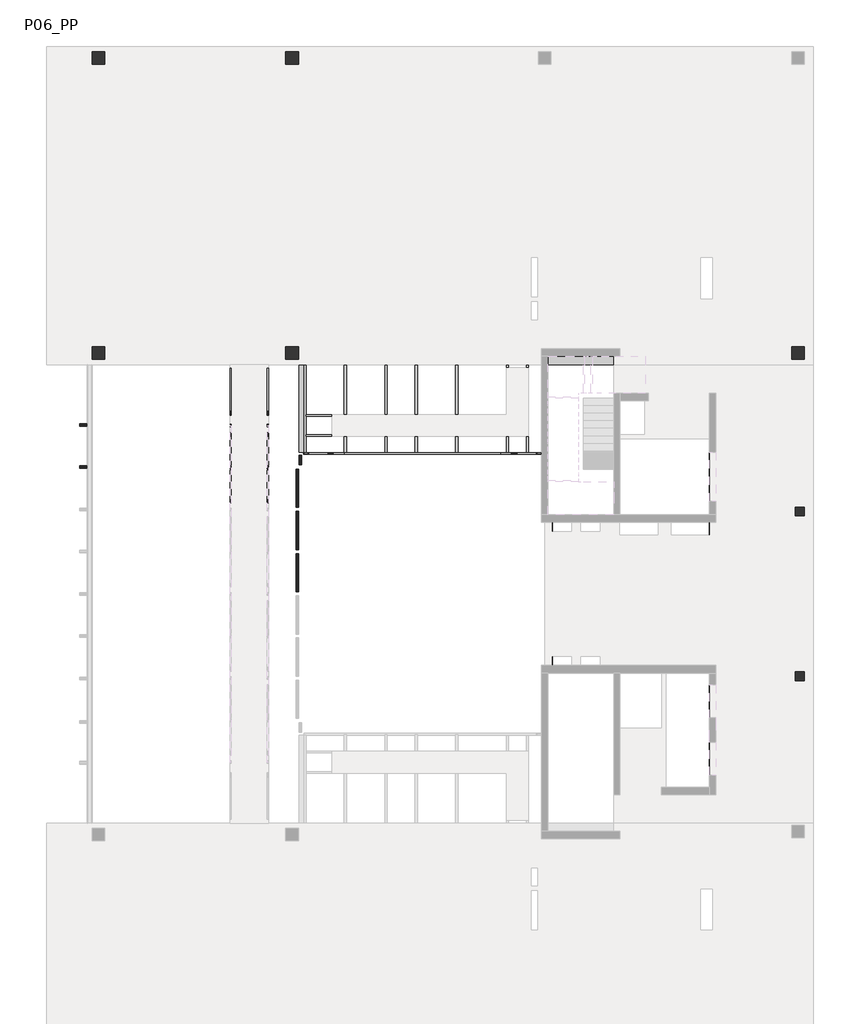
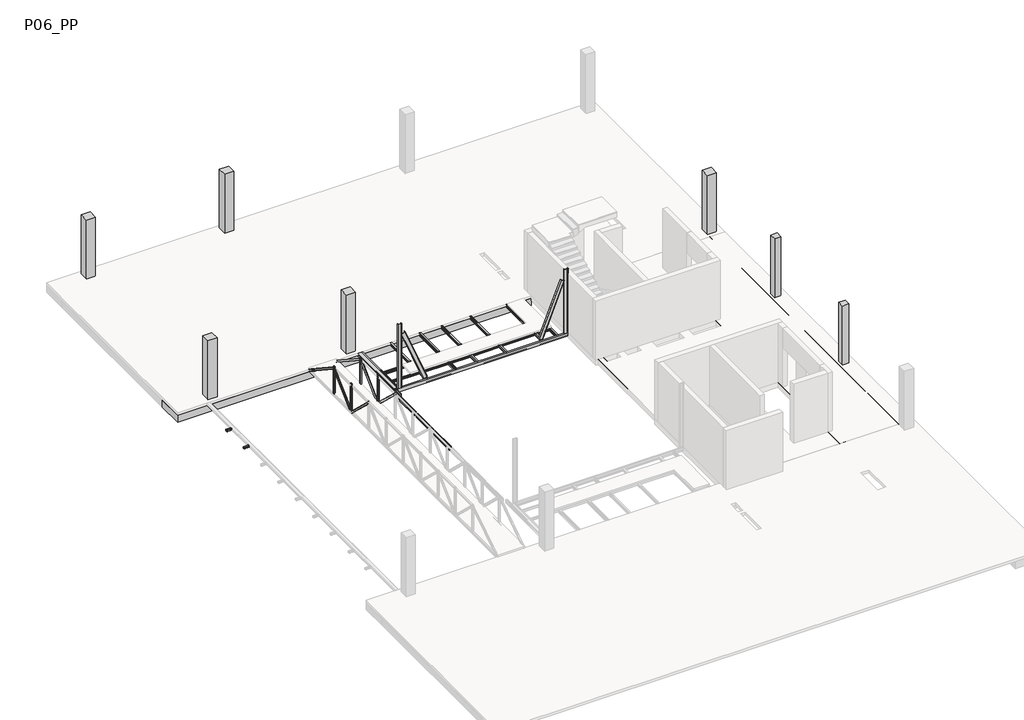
# One storey, part 3 of 4: 55 beams, 9 columns.
"""IFC4 building model written with IfcOpenShell, lengths in millimetres."""

from ifc_helpers import new_model, si_unit, frame, origin, place, context, project, spatial, polyline, outline, extrude, faceted_brep, transform, mapped, element, save
from components import heb_180x180_0f2e0399, m_hss_rectangular_hss_100x100_2c18bcb8, m_hss_rectangular_hss_100x100_facdedd0, m_hss_rectangular_hss_200x100_5f17627f, m_hss_rectangular_hss_200x100_02db10bf, m_hss_rectangular_hss_200x100_1788cd85, m_hss_rectangular_hss_200x100_5a28828e, ub_universal_beams_ipe_160x82_a4b44378, ub_universal_beams_ipe_160x82_3ea767f5, upn100x50_d5197bc7, upn100x50_399e2a19, upn100x50_abb258e1, upn100x50_0ffe9813, upn100x50_32115c67, upn100x50_21efe051, upn100x50_1668a3c5, upn100x50_bf4f13ef, upn100x50_c16297ee, upn100x50_40f5e142, upn100x50_6a18d03b, upn120x55_8ca40f5d, upn120x55_f8c29ef0, upn120x55_6f2391d9, upn120x55_f3862d68, upn120x55_dbb17e30, upn200x75_1f64faac, upn200x75_e6c17937, upn200x75_e630fb83, upn_200x75_f21e3de1

model = new_model("IFC4")

# Units and contexts
model_context = context("Model", 3, world=origin())
ifc_project = project(units=[si_unit("LENGTHUNIT", "METRE", prefix="MILLI")], contexts=[model_context])

# Site, building, storey
site = spatial("IfcSite", under=ifc_project)
building = spatial("IfcBuilding", under=site)
storey = spatial("IfcBuildingStorey", under=building, Name="P06_PP", Elevation=29910.0)

# Beams
placement = place(None, origin())
heb_180x180_shape = heb_180x180_0f2e0399(model_context)
element("IfcBeam", 1, ObjectType="M_HP-Bearing Pile : HEB 180x180", at=placement, inside=storey, context=model_context, shape_type="MappedRepresentation", body=[
    mapped(heb_180x180_shape, transform((-23130.357866, 12156.8787841, 29820.0), x_axis=(0.0, 1.0, 0.0), y_axis=(-1.0, 0.0, 0.0), z_axis=(0.0, 0.0, 1.0))),
])
element("IfcBeam", 2, ObjectType="M_Concrete-Rectangular Beam : 1500 x 550mm", at=placement, inside=storey, context=model_context, shape_type="Brep", body=[
    faceted_brep([(-13390.3216429, 13539.4134441, 29910.0), (-10790.2146087, 13539.4134441, 29910.0), (-10790.2146087, 13864.8960677, 29910.0), (-13390.3216429, 13864.8960677, 29910.0), (-2913.6343046, 15039.4134441, 29360.0), (-4553.6343046, 15039.4134441, 29360.0), (-5816.2708415, 15039.4134441, 29360.0), (-6216.2708415, 15039.4134441, 29360.0), (-7482.9375051, 15039.4134441, 29360.0), (-7882.9375051, 15039.4134441, 29360.0), (-9149.6041702, 15039.4134441, 29360.0), (-9549.6041702, 15039.4134441, 29360.0), (-10816.2708336, 15039.4134441, 29360.0), (-11216.2708336, 15039.4134441, 29360.0), (-12482.9374977, 15039.4134441, 29360.0), (-12882.9374977, 15039.4134441, 29360.0), (-14149.604161, 15039.4134441, 29360.0), (-14549.604161, 15039.4134441, 29360.0), (-15816.2708252, 15039.4134441, 29360.0), (-16216.2708252, 15039.4134441, 29360.0), (-17482.9374898, 15039.4134441, 29360.0), (-17882.9374898, 15039.4134441, 29360.0), (-19149.6041539, 15039.4134441, 29360.0), (-19549.6041539, 15039.4134441, 29360.0), (-20816.2708168, 15039.4134441, 29360.0), (-21216.2708168, 15039.4134441, 29360.0), (-22482.9374805, 15039.4134441, 29360.0), (-22882.9374805, 15039.4134441, 29360.0), (-24149.6041453, 15039.4134441, 29360.0), (-24549.6041453, 15039.4134441, 29360.0), (-25816.2708089, 15039.4134441, 29360.0), (-26216.2708089, 15039.4134441, 29360.0), (-27482.9374731, 15039.4134441, 29360.0), (-27882.9374731, 15039.4134441, 29360.0), (-29149.6041367, 15039.4134441, 29360.0), (-29549.6041367, 15039.4134441, 29360.0), (-30816.2708024, 15039.4134441, 29360.0), (-31216.2708024, 15039.4134441, 29360.0), (-32490.2931069, 15039.4134441, 29360.0), (-33190.2931069, 15039.4134441, 29360.0), (-33190.2931069, 15039.4134441, 29760.0), (-32490.2931069, 15039.4134441, 29760.0), (-31216.2708024, 15039.4134441, 29760.0), (-30816.2708024, 15039.4134441, 29760.0), (-29549.6041367, 15039.4134441, 29760.0), (-29149.6041367, 15039.4134441, 29760.0), (-27882.9374731, 15039.4134441, 29760.0), (-27482.9374731, 15039.4134441, 29760.0), (-26216.2708089, 15039.4134441, 29760.0), (-25816.2708089, 15039.4134441, 29760.0), (-24549.6041453, 15039.4134441, 29760.0), (-24149.6041453, 15039.4134441, 29760.0), (-22882.9374805, 15039.4134441, 29760.0), (-22482.9374805, 15039.4134441, 29760.0), (-21216.2708168, 15039.4134441, 29760.0), (-20816.2708168, 15039.4134441, 29760.0), (-19549.6041539, 15039.4134441, 29760.0), (-19149.6041539, 15039.4134441, 29760.0), (-17882.9374898, 15039.4134441, 29760.0), (-17482.9374898, 15039.4134441, 29760.0), (-16216.2708252, 15039.4134441, 29760.0), (-15816.2708252, 15039.4134441, 29760.0), (-14549.604161, 15039.4134441, 29760.0), (-14149.604161, 15039.4134441, 29760.0), (-12882.9374977, 15039.4134441, 29760.0), (-12482.9374977, 15039.4134441, 29760.0), (-11216.2708336, 15039.4134441, 29760.0), (-10816.2708336, 15039.4134441, 29760.0), (-9549.6041702, 15039.4134441, 29760.0), (-9149.6041702, 15039.4134441, 29760.0), (-7882.9375051, 15039.4134441, 29760.0), (-7482.9375051, 15039.4134441, 29760.0), (-6216.2708415, 15039.4134441, 29760.0), (-5816.2708415, 15039.4134441, 29760.0), (-4553.6343046, 15039.4134441, 29760.0), (-2913.6343046, 15039.4134441, 29760.0), (-33190.2931069, 13539.4134441, 29360.0), (-2913.6343046, 13539.4134441, 29360.0), (-13390.3216429, 13539.4134441, 29360.0), (-13390.3216429, 13864.8960687, 29360.0), (-10540.3248355, 13864.8960687, 29360.0), (-10540.3248355, 14164.8960687, 29360.0), (-13640.3216429, 14164.8960687, 29360.0), (-13640.3216429, 13539.4134441, 29360.0), (-3266.3636719, 13739.5630042, 29360.0), (-3266.3636764, 14239.5630042, 29360.0), (-3766.3636764, 14239.5629997, 29360.0), (-3766.3636719, 13739.5629997, 29360.0), (-23240.9136369, 13739.5627917, 29360.0), (-23240.9136354, 14239.5627917, 29360.0), (-23740.9136354, 14239.5627932, 29360.0), (-23740.9136369, 13739.5627932, 29360.0), (-30890.9550524, 13739.562786, 29360.0), (-30890.9550513, 14239.562786, 29360.0), (-31390.9550513, 14239.5627871, 29360.0), (-31390.9550524, 13739.5627871, 29360.0), (-13640.3216429, 13539.4134441, 29609.9777344), (-13390.3216429, 13539.4134441, 29609.9777344), (-2913.6343046, 13539.4134441, 29610.0), (-2913.6343046, 13539.4134441, 29760.0), (-10790.2146087, 13539.4134441, 29760.0), (-13390.3216429, 13539.4134441, 29760.0), (-33190.2931069, 13539.4134441, 29760.0), (-3266.3636719, 13739.5630042, 29610.0), (-3266.3636764, 14239.5630042, 29610.0), (-3766.3636719, 13739.5629997, 29610.0), (-3766.3636764, 14239.5629997, 29610.0), (-23240.9136369, 13739.5627917, 29610.0), (-23240.9136354, 14239.5627917, 29610.0), (-23740.9136369, 13739.5627932, 29610.0), (-23740.9136354, 14239.5627932, 29610.0), (-30890.9550524, 13739.562786, 29610.0), (-30890.9550513, 14239.562786, 29610.0), (-31390.9550524, 13739.5627871, 29610.0), (-31390.9550513, 14239.5627871, 29610.0), (-10540.3248355, 14164.8960687, 29609.9777344), (-13640.3216429, 14164.8960687, 29609.9777344), (-10540.3248355, 13864.8960687, 29609.9777344), (-13390.3216429, 13864.8960687, 29609.9777344), (-13640.3216429, 13864.8960687, 29609.9777344), (-10790.2146087, 13864.8960677, 29760.0), (-13390.3216429, 13864.8960677, 29760.0)], [[[0, 1, 2, 3]], [[4, 5, 6, 7, 8, 9, 10, 11, 12, 13, 14, 15, 16, 17, 18, 19, 20, 21, 22, 23, 24, 25, 26, 27, 28, 29, 30, 31, 32, 33, 34, 35, 36, 37, 38, 39, 40, 41, 42, 43, 44, 45, 46, 47, 48, 49, 50, 51, 52, 53, 54, 55, 56, 57, 58, 59, 60, 61, 62, 63, 64, 65, 66, 67, 68, 69, 70, 71, 72, 73, 74, 75]], [[76, 39, 38, 37, 36, 35, 34, 33, 32, 31, 30, 29, 28, 27, 26, 25, 24, 23, 22, 21, 20, 19, 18, 17, 16, 15, 14, 13, 12, 11, 10, 9, 8, 7, 6, 5, 4, 77, 78, 79, 80, 81, 82, 83], [84, 85, 86, 87], [88, 89, 90, 91], [92, 93, 94, 95]], [[76, 83, 96, 97, 78, 77, 98, 99, 100, 1, 0, 101, 102]], [[39, 76, 102, 40]], [[77, 4, 75, 99, 98]], [[103, 104, 85, 84]], [[105, 103, 84, 87]], [[106, 105, 87, 86]], [[104, 106, 86, 85]], [[104, 103, 105, 106]], [[107, 108, 89, 88]], [[109, 107, 88, 91]], [[110, 109, 91, 90]], [[108, 110, 90, 89]], [[108, 107, 109, 110]], [[111, 112, 93, 92]], [[113, 111, 92, 95]], [[114, 113, 95, 94]], [[112, 114, 94, 93]], [[112, 111, 113, 114]], [[115, 116, 82, 81]], [[117, 80, 79, 118]], [[116, 115, 117, 118, 97, 96, 119]], [[117, 115, 81, 80]], [[82, 116, 119, 96, 83]], [[97, 118, 79, 78]], [[120, 100, 99, 75, 74, 73, 72, 71, 70, 69, 68, 67, 66, 65, 64, 63, 62, 61, 60, 59, 58, 57, 56, 55, 54, 53, 52, 51, 50, 49, 48, 47, 46, 45, 44, 43, 42, 41, 40, 102, 101, 121]], [[120, 121, 3, 2]], [[121, 101, 0, 3]], [[100, 120, 2, 1]]]),
])
element("IfcBeam", 3, ObjectType="M_Concrete-Rectangular Beam : 300 x 300mm", at=placement, inside=storey, context=model_context, shape_type="SweptSolid", body=[
    extrude(outline(polyline([(-13515.3216429, 7614.8960673), (-13215.3216429, 7614.8960673), (-13215.3216429, 1364.8960692), (-13515.3216429, 1364.8960692), (-13515.3216429, 7614.8960673)])), frame((0.0, 0.0, 29610.0), z_axis=(0.0, 0.0, 1.0), x_axis=(1.0, 0.0, 0.0)), (0.0, 0.0, 1.0), 300.0),
])
element("IfcBeam", 4, ObjectType="M_Concrete-Rectangular Beam : 300 x 300mm", at=placement, inside=storey, context=model_context, shape_type="Brep", body=[
    faceted_brep([(-6715.3241677, 13539.4134441, 29910.0), (-7015.3241677, 13539.4134441, 29910.0), (-7015.3241677, -4560.5861501, 29910.0), (-6715.3241677, -4560.5861501, 29910.0), (-7015.3241677, 13539.4134441, 29760.0), (-7015.3241677, 13539.4134441, 29610.0), (-7015.3241677, -4560.5861501, 29610.0), (-7015.3241677, -4560.5861501, 29760.0), (-6715.3241677, 13539.4134441, 29610.0), (-6715.3241677, -4560.5861501, 29610.0), (-6715.3241677, -4560.5861501, 29760.0), (-6715.3241677, 13539.4134441, 29760.0)], [[[0, 1, 2, 3]], [[2, 1, 4, 5, 6, 7]], [[5, 8, 9, 6]], [[0, 3, 10, 9, 8, 11]], [[1, 0, 11, 8, 5, 4]], [[3, 2, 7, 6, 9, 10]]]),
])
element("IfcBeam", 5, ObjectType="M_Concrete-Rectangular Beam : 400 x 550mm", at=placement, inside=storey, context=model_context, shape_type="SweptSolid", body=[
    extrude(outline(polyline([(-30816.2708024, 15039.4134441), (-31216.2708024, 15039.4134441), (-31216.2708024, 24589.4144807), (-30816.2708024, 24589.4144807), (-30816.2708024, 15039.4134441)])), frame((0.0, 0.0, 29360.0), z_axis=(0.0, 0.0, 1.0), x_axis=(1.0, 0.0, 0.0)), (0.0, 0.0, 1.0), 400.0),
])
element("IfcBeam", 6, ObjectType="M_Concrete-Rectangular Beam : 400 x 550mm", at=placement, inside=storey, context=model_context, shape_type="SweptSolid", body=[
    extrude(outline(polyline([(-29149.6041367, 15039.4134441), (-29549.6041367, 15039.4134441), (-29549.6041367, 24589.4144807), (-29149.6041367, 24589.4144807), (-29149.6041367, 15039.4134441)])), frame((0.0, 0.0, 29360.0), z_axis=(0.0, 0.0, 1.0), x_axis=(1.0, 0.0, 0.0)), (0.0, 0.0, 1.0), 400.0),
])
element("IfcBeam", 7, ObjectType="M_Concrete-Rectangular Beam : 400 x 550mm", at=placement, inside=storey, context=model_context, shape_type="SweptSolid", body=[
    extrude(outline(polyline([(-27482.9374731, 15039.4134441), (-27882.9374731, 15039.4134441), (-27882.9374731, 24589.4144807), (-27482.9374731, 24589.4144807), (-27482.9374731, 15039.4134441)])), frame((0.0, 0.0, 29360.0), z_axis=(0.0, 0.0, 1.0), x_axis=(1.0, 0.0, 0.0)), (0.0, 0.0, 1.0), 400.0),
])
element("IfcBeam", 8, ObjectType="M_Concrete-Rectangular Beam : 400 x 550mm", at=placement, inside=storey, context=model_context, shape_type="SweptSolid", body=[
    extrude(outline(polyline([(-25816.2708089, 15039.4134441), (-26216.2708089, 15039.4134441), (-26216.2708089, 24589.4144807), (-25816.2708089, 24589.4144807), (-25816.2708089, 15039.4134441)])), frame((0.0, 0.0, 29360.0), z_axis=(0.0, 0.0, 1.0), x_axis=(1.0, 0.0, 0.0)), (0.0, 0.0, 1.0), 400.0),
])
element("IfcBeam", 9, ObjectType="M_Concrete-Rectangular Beam : 400 x 550mm", at=placement, inside=storey, context=model_context, shape_type="SweptSolid", body=[
    extrude(outline(polyline([(-24149.6041453, 15039.4134441), (-24549.6041453, 15039.4134441), (-24549.6041453, 24589.4144807), (-24149.6041453, 24589.4144807), (-24149.6041453, 15039.4134441)])), frame((0.0, 0.0, 29360.0), z_axis=(0.0, 0.0, 1.0), x_axis=(1.0, 0.0, 0.0)), (0.0, 0.0, 1.0), 400.0),
])
element("IfcBeam", 10, ObjectType="M_Concrete-Rectangular Beam : 400 x 550mm", at=placement, inside=storey, context=model_context, shape_type="SweptSolid", body=[
    extrude(outline(polyline([(-22482.9374805, 15039.4134441), (-22882.9374805, 15039.4134441), (-22882.9374805, 24589.4144807), (-22482.9374805, 24589.4144807), (-22482.9374805, 15039.4134441)])), frame((0.0, 0.0, 29360.0), z_axis=(0.0, 0.0, 1.0), x_axis=(1.0, 0.0, 0.0)), (0.0, 0.0, 1.0), 400.0),
])
element("IfcBeam", 11, ObjectType="M_Concrete-Rectangular Beam : 400 x 550mm", at=placement, inside=storey, context=model_context, shape_type="SweptSolid", body=[
    extrude(outline(polyline([(-20816.2708168, 15039.4134441), (-21216.2708168, 15039.4134441), (-21216.2708168, 24589.4144807), (-20816.2708168, 24589.4144807), (-20816.2708168, 15039.4134441)])), frame((0.0, 0.0, 29360.0), z_axis=(0.0, 0.0, 1.0), x_axis=(1.0, 0.0, 0.0)), (0.0, 0.0, 1.0), 400.0),
])
element("IfcBeam", 12, ObjectType="M_Concrete-Rectangular Beam : 400 x 550mm", at=placement, inside=storey, context=model_context, shape_type="SweptSolid", body=[
    extrude(outline(polyline([(-19149.6041539, 15039.4134441), (-19549.6041539, 15039.4134441), (-19549.6041539, 24589.4144807), (-19149.6041539, 24589.4144807), (-19149.6041539, 15039.4134441)])), frame((0.0, 0.0, 29360.0), z_axis=(0.0, 0.0, 1.0), x_axis=(1.0, 0.0, 0.0)), (0.0, 0.0, 1.0), 400.0),
])
element("IfcBeam", 13, ObjectType="M_Concrete-Rectangular Beam : 400 x 550mm", at=placement, inside=storey, context=model_context, shape_type="SweptSolid", body=[
    extrude(outline(polyline([(-17482.9374898, 15039.4134441), (-17882.9374898, 15039.4134441), (-17882.9374898, 24589.4144807), (-17482.9374898, 24589.4144807), (-17482.9374898, 15039.4134441)])), frame((0.0, 0.0, 29360.0), z_axis=(0.0, 0.0, 1.0), x_axis=(1.0, 0.0, 0.0)), (0.0, 0.0, 1.0), 400.0),
])
element("IfcBeam", 14, ObjectType="M_Concrete-Rectangular Beam : 400 x 550mm", at=placement, inside=storey, context=model_context, shape_type="SweptSolid", body=[
    extrude(outline(polyline([(-15816.2708252, 15039.4134441), (-16216.2708252, 15039.4134441), (-16216.2708252, 24589.4144807), (-15816.2708252, 24589.4144807), (-15816.2708252, 15039.4134441)])), frame((0.0, 0.0, 29360.0), z_axis=(0.0, 0.0, 1.0), x_axis=(1.0, 0.0, 0.0)), (0.0, 0.0, 1.0), 400.0),
])
element("IfcBeam", 15, ObjectType="M_Concrete-Rectangular Beam : 850 x 300mm", at=placement, inside=storey, context=model_context, shape_type="Brep", body=[
    faceted_brep([(-2913.6343046, 13539.4134441, 29910.0), (-3763.6343046, 13539.4134441, 29910.0), (-3763.6343046, -4560.5861501, 29910.0), (-2913.6343046, -4560.5861501, 29910.0), (-3763.6343046, 13539.4134441, 29760.0), (-3763.6343046, 13539.4134441, 29610.0), (-3763.6343046, -4560.5861501, 29610.0), (-3763.6343046, -4560.5861501, 29760.0), (-2913.6343046, 13539.4134441, 29610.0), (-2913.6343046, -4560.5861501, 29610.0), (-2913.6343046, -4560.5861501, 29760.0), (-2913.6343046, 13539.4134441, 29760.0)], [[[0, 1, 2, 3]], [[2, 1, 4, 5, 6, 7]], [[5, 8, 9, 6]], [[0, 3, 10, 9, 8, 11]], [[1, 0, 11, 8, 5, 4]], [[3, 2, 7, 6, 9, 10]]]),
])
m_hss_rectangular_hss_100x100_shape = m_hss_rectangular_hss_100x100_2c18bcb8(model_context)
element("IfcBeam", 16, ObjectType="M_HSS Rectangular : HSS 100x100", at=placement, inside=storey, context=model_context, shape_type="MappedRepresentation", body=[
    mapped(m_hss_rectangular_hss_100x100_shape, transform((-31731.1858345, 11156.6960682, 29860.0), x_axis=(-1.0, -1.6625733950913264e-09, 0.0), y_axis=(1.6625733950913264e-09, -1.0, 0.0), z_axis=(0.0, 0.0, 1.0))),
])
m_hss_rectangular_hss_100x100_2_shape = m_hss_rectangular_hss_100x100_facdedd0(model_context)
element("IfcBeam", 17, ObjectType="M_HSS Rectangular : HSS 100x100", at=placement, inside=storey, context=model_context, shape_type="MappedRepresentation", body=[
    mapped(m_hss_rectangular_hss_100x100_2_shape, transform((-31731.1858341, 9489.9960685, 29860.0), x_axis=(-1.0, 0.0, 0.0), y_axis=(0.0, -1.0, 0.0), z_axis=(0.0, 0.0, 1.0))),
])
m_hss_rectangular_hss_200x100_shape = m_hss_rectangular_hss_200x100_5f17627f(model_context)
element("IfcBeam", 18, ObjectType="M_HSS Rectangular : HSS 200x100", at=placement, inside=storey, context=model_context, shape_type="MappedRepresentation", body=[
    mapped(m_hss_rectangular_hss_200x100_shape, transform((-23290.3172019, 8679.8399046, 29810.0), x_axis=(-3.182446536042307e-08, -0.9999999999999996, 0.0), y_axis=(0.9999999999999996, -3.182446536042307e-08, 0.0), z_axis=(0.0, 0.0, 1.0))),
])
m_hss_rectangular_hss_200x100_2_shape = m_hss_rectangular_hss_200x100_02db10bf(model_context)
element("IfcBeam", 19, ObjectType="M_HSS Rectangular : HSS 200x100", at=placement, inside=storey, context=model_context, shape_type="MappedRepresentation", body=[
    mapped(m_hss_rectangular_hss_200x100_2_shape, transform((-23290.3172557, 6989.4139649, 29810.0), x_axis=(-3.182446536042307e-08, -0.9999999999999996, 0.0), y_axis=(0.9999999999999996, -3.182446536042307e-08, 0.0), z_axis=(0.0, 0.0, 1.0))),
])
m_hss_rectangular_hss_200x100_3_shape = m_hss_rectangular_hss_200x100_1788cd85(model_context)
element("IfcBeam", 20, ObjectType="M_HSS Rectangular : HSS 200x100", at=placement, inside=storey, context=model_context, shape_type="MappedRepresentation", body=[
    mapped(m_hss_rectangular_hss_200x100_3_shape, transform((-23290.3173087, 5322.9883919, 29810.0), x_axis=(-3.182446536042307e-08, -0.9999999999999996, 0.0), y_axis=(0.9999999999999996, -3.182446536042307e-08, 0.0), z_axis=(0.0, 0.0, 1.0))),
])
m_hss_rectangular_hss_200x100_4_shape = m_hss_rectangular_hss_200x100_5a28828e(model_context)
element("IfcBeam", 21, ObjectType="M_HSS Rectangular : HSS 200x100", at=placement, inside=storey, context=model_context, shape_type="MappedRepresentation", body=[
    mapped(m_hss_rectangular_hss_200x100_4_shape, transform((-23160.3171618, 9792.3965304, 29810.0), x_axis=(0.0, 1.0, 0.0), y_axis=(-1.0, 0.0, 0.0), z_axis=(0.0, 0.0, 1.0))),
])
ub_universal_beams_ipe_160x82_shape = ub_universal_beams_ipe_160x82_a4b44378(model_context)
element("IfcBeam", 22, ObjectType="UB-Universal Beams : IPE 160x82", at=placement, inside=storey, context=model_context, shape_type="MappedRepresentation", body=[
    mapped(ub_universal_beams_ipe_160x82_shape, transform((-14190.4459331, 12171.9464504, 29830.0), x_axis=(0.0, -1.0, 0.0), y_axis=(1.0, 0.0, 0.0), z_axis=(0.0, 0.0, 1.0))),
])
element("IfcBeam", 23, ObjectType="UB-Universal Beams : IPE 160x82", at=placement, inside=storey, context=model_context, shape_type="MappedRepresentation", body=[
    mapped(ub_universal_beams_ipe_160x82_shape, transform((-14990.4459326, 12171.9464378, 29830.0), x_axis=(0.0, -1.0, 0.0), y_axis=(1.0, 0.0, 0.0), z_axis=(0.0, 0.0, 1.0))),
])
element("IfcBeam", 24, ObjectType="UB-Universal Beams : IPE 160x82", at=placement, inside=storey, context=model_context, shape_type="MappedRepresentation", body=[
    mapped(ub_universal_beams_ipe_160x82_shape, transform((-16990.4459316, 12171.9464061, 29830.0), x_axis=(0.0, -1.0, 0.0), y_axis=(1.0, 0.0, 0.0), z_axis=(0.0, 0.0, 1.0))),
])
element("IfcBeam", 25, ObjectType="UB-Universal Beams : IPE 160x82", at=placement, inside=storey, context=model_context, shape_type="MappedRepresentation", body=[
    mapped(ub_universal_beams_ipe_160x82_shape, transform((-18590.4459308, 12171.9463807, 29830.0), x_axis=(0.0, -1.0, 0.0), y_axis=(1.0, 0.0, 0.0), z_axis=(0.0, 0.0, 1.0))),
])
element("IfcBeam", 26, ObjectType="UB-Universal Beams : IPE 160x82", at=placement, inside=storey, context=model_context, shape_type="MappedRepresentation", body=[
    mapped(ub_universal_beams_ipe_160x82_shape, transform((-19790.4459314, 12171.9463617, 29830.0), x_axis=(0.0, -1.0, 0.0), y_axis=(1.0, 0.0, 0.0), z_axis=(0.0, 0.0, 1.0))),
])
element("IfcBeam", 27, ObjectType="UB-Universal Beams : IPE 160x82", at=placement, inside=storey, context=model_context, shape_type="MappedRepresentation", body=[
    mapped(ub_universal_beams_ipe_160x82_shape, transform((-21390.4459306, 12171.9463363, 29830.0), x_axis=(0.0, -1.0, 0.0), y_axis=(1.0, 0.0, 0.0), z_axis=(0.0, 0.0, 1.0))),
])
ub_universal_beams_ipe_160x82_2_shape = ub_universal_beams_ipe_160x82_3ea767f5(model_context)
element("IfcBeam", 28, ObjectType="UB-Universal Beams : IPE 160x82", at=placement, inside=storey, context=model_context, shape_type="MappedRepresentation", body=[
    mapped(ub_universal_beams_ipe_160x82_2_shape, transform((-22991.1860553, 12171.9463109, 29830.0), x_axis=(0.0, -1.0, 0.0), y_axis=(1.0, 0.0, 0.0), z_axis=(0.0, 0.0, 1.0))),
])
upn100x50_shape = upn100x50_d5197bc7(model_context)
element("IfcBeam", 29, ObjectType="M_MC Shapes : UPN100x50", at=placement, inside=storey, context=model_context, shape_type="MappedRepresentation", body=[
    mapped(upn100x50_shape, transform((-25184.5845147, 11143.5137942, 29860.0), x_axis=(1.0, 0.0, 0.0), y_axis=(0.0, 1.0, 0.0), z_axis=(0.0, 0.0, 1.0))),
])
element("IfcBeam", 30, ObjectType="M_MC Shapes : UPN100x50", at=placement, inside=storey, context=model_context, shape_type="MappedRepresentation", body=[
    mapped(upn100x50_shape, transform((-25184.5845147, 9483.5638973, 29860.0), x_axis=(1.0, 0.0, 0.0), y_axis=(0.0, 1.0, 0.0), z_axis=(0.0, 0.0, 1.0))),
])
upn100x50_2_shape = upn100x50_399e2a19(model_context)
element("IfcBeam", 31, ObjectType="M_MC Shapes : UPN100x50", at=placement, inside=storey, context=model_context, shape_type="MappedRepresentation", body=[
    mapped(upn100x50_2_shape, transform((-25906.3198148, 11129.4137942, 30750.0), x_axis=(0.0, 0.0, 1.0), y_axis=(-1.0, 0.0, 0.0), z_axis=(0.0, -1.0, 0.0))),
])
upn100x50_3_shape = upn100x50_abb258e1(model_context)
element("IfcBeam", 32, ObjectType="M_MC Shapes : UPN100x50", at=placement, inside=storey, context=model_context, shape_type="MappedRepresentation", body=[
    mapped(upn100x50_3_shape, transform((-24462.8492146, 11129.4137942, 30750.0), x_axis=(0.0, 0.0, 1.0), y_axis=(-1.0, 0.0, 0.0), z_axis=(0.0, -1.0, 0.0))),
])
upn100x50_4_shape = upn100x50_0ffe9813(model_context)
element("IfcBeam", 33, ObjectType="M_MC Shapes : UPN100x50", at=placement, inside=storey, context=model_context, shape_type="MappedRepresentation", body=[
    mapped(upn100x50_4_shape, transform((-25906.3198148, 12288.5615454, 30680.0608104), x_axis=(0.0, -0.836296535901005, 0.548277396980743), y_axis=(-1.0, 0.0, 0.0), z_axis=(0.0, -0.548277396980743, -0.836296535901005))),
])
upn100x50_5_shape = upn100x50_32115c67(model_context)
element("IfcBeam", 34, ObjectType="M_MC Shapes : UPN100x50", at=placement, inside=storey, context=model_context, shape_type="MappedRepresentation", body=[
    mapped(upn100x50_5_shape, transform((-24462.8492146, 12288.5615454, 30680.0608104), x_axis=(0.0, -0.836296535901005, 0.548277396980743), y_axis=(-1.0, 0.0, 0.0), z_axis=(0.0, -0.548277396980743, -0.836296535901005))),
])
upn100x50_6_shape = upn100x50_21efe051(model_context)
element("IfcBeam", 35, ObjectType="M_MC Shapes : UPN100x50", at=placement, inside=storey, context=model_context, shape_type="MappedRepresentation", body=[
    mapped(upn100x50_6_shape, transform((-25906.3198148, 8589.4749296, 30697.5323686), x_axis=(0.0, -0.7243454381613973, 0.6894372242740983), y_axis=(-1.0, 0.0, 0.0), z_axis=(0.0, -0.6894372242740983, -0.7243454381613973))),
])
upn100x50_7_shape = upn100x50_1668a3c5(model_context)
element("IfcBeam", 36, ObjectType="M_MC Shapes : UPN100x50", at=placement, inside=storey, context=model_context, shape_type="MappedRepresentation", body=[
    mapped(upn100x50_7_shape, transform((-24462.8492146, 8589.4749296, 30697.5323686), x_axis=(0.0, -0.7243454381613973, 0.6894372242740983), y_axis=(-1.0, 0.0, 0.0), z_axis=(0.0, -0.6894372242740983, -0.7243454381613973))),
])
upn100x50_8_shape = upn100x50_bf4f13ef(model_context)
element("IfcBeam", 37, ObjectType="M_MC Shapes : UPN100x50", at=placement, inside=storey, context=model_context, shape_type="MappedRepresentation", body=[
    mapped(upn100x50_8_shape, transform((-25906.3198148, 9469.4140005, 30750.0), x_axis=(0.0, 0.0, 1.0), y_axis=(-1.0, 0.0, 0.0), z_axis=(0.0, -1.0, 0.0))),
])
upn100x50_9_shape = upn100x50_c16297ee(model_context)
element("IfcBeam", 38, ObjectType="M_MC Shapes : UPN100x50", at=placement, inside=storey, context=model_context, shape_type="MappedRepresentation", body=[
    mapped(upn100x50_9_shape, transform((-25906.3198148, 10349.3529685, 30697.5323748), x_axis=(0.0, -0.7243453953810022, -0.6894372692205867), y_axis=(-1.0, 0.0, 0.0), z_axis=(0.0, 0.6894372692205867, -0.7243453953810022))),
])
upn100x50_10_shape = upn100x50_40f5e142(model_context)
element("IfcBeam", 39, ObjectType="M_MC Shapes : UPN100x50", at=placement, inside=storey, context=model_context, shape_type="MappedRepresentation", body=[
    mapped(upn100x50_10_shape, transform((-24462.8492146, 9469.4140005, 30750.0), x_axis=(0.0, 0.0, 1.0), y_axis=(-1.0, 0.0, 0.0), z_axis=(0.0, -1.0, 0.0))),
])
upn100x50_11_shape = upn100x50_6a18d03b(model_context)
element("IfcBeam", 40, ObjectType="M_MC Shapes : UPN100x50", at=placement, inside=storey, context=model_context, shape_type="MappedRepresentation", body=[
    mapped(upn100x50_11_shape, transform((-24462.8492146, 10349.3529685, 30697.5323748), x_axis=(0.0, -0.7243453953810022, -0.6894372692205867), y_axis=(-1.0, 0.0, 0.0), z_axis=(0.0, 0.6894372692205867, -0.7243453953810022))),
])
upn120x55_shape = upn120x55_8ca40f5d(model_context)
element("IfcBeam", 41, ObjectType="M_MC Shapes : UPN120x55", at=placement, inside=storey, context=model_context, shape_type="MappedRepresentation", body=[
    mapped(upn120x55_shape, transform((-22165.4459321, 11551.9793105, 29850.0), x_axis=(0.9999999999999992, 4.0441290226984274e-08, 0.0), y_axis=(-4.0441290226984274e-08, 0.9999999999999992, 0.0), z_axis=(0.0, 0.0, 1.0))),
])
element("IfcBeam", 42, ObjectType="M_MC Shapes : UPN120x55", at=placement, inside=storey, context=model_context, shape_type="MappedRepresentation", body=[
    mapped(upn120x55_shape, transform((-22165.4459321, 10751.9793096, 29850.0), x_axis=(0.9999999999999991, 4.319865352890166e-08, 0.0), y_axis=(-4.319865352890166e-08, 0.9999999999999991, 0.0), z_axis=(0.0, 0.0, 1.0))),
])
upn120x55_2_shape = upn120x55_f8c29ef0(model_context)
element("IfcBeam", 43, ObjectType="M_MC Shapes : UPN120x55", at=placement, inside=storey, context=model_context, shape_type="MappedRepresentation", body=[
    mapped(upn120x55_2_shape, transform((-20590.445931, 10751.9793776, 29850.0), x_axis=(0.9999999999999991, 4.319865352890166e-08, 0.0), y_axis=(-4.319865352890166e-08, 0.9999999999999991, 0.0), z_axis=(0.0, 0.0, 1.0))),
])
element("IfcBeam", 44, ObjectType="M_MC Shapes : UPN120x55", at=placement, inside=storey, context=model_context, shape_type="MappedRepresentation", body=[
    mapped(upn120x55_2_shape, transform((-17790.4459312, 10751.9794985, 29850.0), x_axis=(0.9999999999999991, 4.319865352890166e-08, 0.0), y_axis=(-4.319865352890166e-08, 0.9999999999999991, 0.0), z_axis=(0.0, 0.0, 1.0))),
])
element("IfcBeam", 45, ObjectType="M_MC Shapes : UPN120x55", at=placement, inside=storey, context=model_context, shape_type="MappedRepresentation", body=[
    mapped(upn120x55_2_shape, transform((-20590.445931, 11551.9793742, 29850.0), x_axis=(0.9999999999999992, 4.0441290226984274e-08, 0.0), y_axis=(-4.0441290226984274e-08, 0.9999999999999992, 0.0), z_axis=(0.0, 0.0, 1.0))),
])
element("IfcBeam", 46, ObjectType="M_MC Shapes : UPN120x55", at=placement, inside=storey, context=model_context, shape_type="MappedRepresentation", body=[
    mapped(upn120x55_2_shape, transform((-17790.4459312, 11551.9794874, 29850.0), x_axis=(0.9999999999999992, 4.0441290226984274e-08, 0.0), y_axis=(-4.0441290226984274e-08, 0.9999999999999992, 0.0), z_axis=(0.0, 0.0, 1.0))),
])
upn120x55_3_shape = upn120x55_6f2391d9(model_context)
element("IfcBeam", 47, ObjectType="M_MC Shapes : UPN120x55", at=placement, inside=storey, context=model_context, shape_type="MappedRepresentation", body=[
    mapped(upn120x55_3_shape, transform((-19190.4459311, 10751.9794381, 29850.0), x_axis=(0.9999999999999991, 4.319865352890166e-08, 0.0), y_axis=(-4.319865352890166e-08, 0.9999999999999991, 0.0), z_axis=(0.0, 0.0, 1.0))),
])
element("IfcBeam", 48, ObjectType="M_MC Shapes : UPN120x55", at=placement, inside=storey, context=model_context, shape_type="MappedRepresentation", body=[
    mapped(upn120x55_3_shape, transform((-19190.4459311, 11551.9794308, 29850.0), x_axis=(0.9999999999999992, 4.0441290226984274e-08, 0.0), y_axis=(-4.0441290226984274e-08, 0.9999999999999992, 0.0), z_axis=(0.0, 0.0, 1.0))),
])
upn120x55_4_shape = upn120x55_f3862d68(model_context)
element("IfcBeam", 49, ObjectType="M_MC Shapes : UPN120x55", at=placement, inside=storey, context=model_context, shape_type="MappedRepresentation", body=[
    mapped(upn120x55_4_shape, transform((-15990.4459321, 10751.9795763, 29850.0), x_axis=(0.9999999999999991, 4.319865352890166e-08, 0.0), y_axis=(-4.319865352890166e-08, 0.9999999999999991, 0.0), z_axis=(0.0, 0.0, 1.0))),
])
element("IfcBeam", 50, ObjectType="M_MC Shapes : UPN120x55", at=placement, inside=storey, context=model_context, shape_type="MappedRepresentation", body=[
    mapped(upn120x55_4_shape, transform((-15990.4459321, 11551.9795602, 29850.0), x_axis=(0.9999999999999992, 4.0441290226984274e-08, 0.0), y_axis=(-4.0441290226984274e-08, 0.9999999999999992, 0.0), z_axis=(0.0, 0.0, 1.0))),
])
upn120x55_5_shape = upn120x55_dbb17e30(model_context)
element("IfcBeam", 51, ObjectType="M_MC Shapes : UPN120x55", at=placement, inside=storey, context=model_context, shape_type="MappedRepresentation", body=[
    mapped(upn120x55_5_shape, transform((-14590.4459328, 11551.9796168, 29850.0), x_axis=(0.9999999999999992, 4.0441290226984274e-08, 0.0), y_axis=(-4.0441290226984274e-08, 0.9999999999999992, 0.0), z_axis=(0.0, 0.0, 1.0))),
])
element("IfcBeam", 52, ObjectType="M_MC Shapes : UPN120x55", at=placement, inside=storey, context=model_context, shape_type="MappedRepresentation", body=[
    mapped(upn120x55_5_shape, transform((-14590.4459328, 10751.9796368, 29850.0), x_axis=(0.9999999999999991, 4.319865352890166e-08, 0.0), y_axis=(-4.319865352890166e-08, 0.9999999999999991, 0.0), z_axis=(0.0, 0.0, 1.0))),
])
upn200x75_shape = upn200x75_1f64faac(model_context)
element("IfcBeam", 53, ObjectType="M_MC Shapes : UPN200x75", at=placement, inside=storey, context=model_context, shape_type="MappedRepresentation", body=[
    mapped(upn200x75_shape, transform((-22208.7675596, 10001.2791702, 31730.6012021), x_axis=(-0.3712989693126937, 1.179124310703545e-08, 0.9285133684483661), y_axis=(3.175673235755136e-08, 0.9999999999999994, 0.0), z_axis=(-0.9285133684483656, 2.9486550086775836e-08, -0.3712989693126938))),
])
upn200x75_2_shape = upn200x75_e6c17937(model_context)
element("IfcBeam", 54, ObjectType="M_MC Shapes : UPN200x75", at=placement, inside=storey, context=model_context, shape_type="MappedRepresentation", body=[
    mapped(upn200x75_2_shape, transform((-14469.7052054, 10001.2791702, 31733.85925), x_axis=(0.3712989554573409, 1.1791241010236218e-08, 0.9285133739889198), y_axis=(3.175673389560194e-08, -0.9999999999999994, 0.0), z_axis=(0.9285133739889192, 2.9486552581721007e-08, -0.371298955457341))),
])
upn200x75_3_shape = upn200x75_e630fb83(model_context)
element("IfcBeam", 55, ObjectType="M_MC Shapes : UPN200x75", at=placement, inside=storey, context=model_context, shape_type="MappedRepresentation", body=[
    mapped(upn200x75_3_shape, transform((-18278.2406773, 10001.2793274, 29810.0), x_axis=(0.9999999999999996, 3.175670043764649e-08, 0.0), y_axis=(-3.175670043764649e-08, 0.9999999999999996, 0.0), z_axis=(0.0, 0.0, 1.0))),
])

# Columns
element("IfcColumn", 56, ObjectType="Concrete-Rectangular-Column : Pilar_Rectangular-Formigo-350x350", at=placement, inside=storey, context=model_context, shape_type="SweptSolid", body=[
    extrude(outline(polyline([(-3266.6337069, 1415.0848339), (-3266.6337037, 1065.0848339), (-3616.6337037, 1065.0848308), (-3616.6337069, 1415.0848308), (-3266.6337069, 1415.0848339)])), frame((0.0, 0.0, 29910.0), z_axis=(0.0, 0.0, 1.0), x_axis=(1.0, 0.0, 0.0)), (0.0, 0.0, 1.0), 3450.0),
])
element("IfcColumn", 57, ObjectType="Concrete-Rectangular-Column : Pilar_Rectangular-Formigo-350x350", at=placement, inside=storey, context=model_context, shape_type="SweptSolid", body=[
    extrude(outline(polyline([(-3266.633708, 7915.0848297), (-3266.6337054, 7565.0848297), (-3616.6337054, 7565.084827), (-3616.633708, 7915.084827), (-3266.633708, 7915.0848297)])), frame((0.0, 0.0, 29910.0), z_axis=(0.0, 0.0, 1.0), x_axis=(1.0, 0.0, 0.0)), (0.0, 0.0, 1.0), 3450.0),
])
element("IfcColumn", 58, ObjectType="Concrete-Rectangular-Column : Pilar_Rectangular-Formigo-500x500", at=placement, inside=storey, context=model_context, shape_type="Brep", body=[
    faceted_brep([(-3265.767646, 14239.8953429, 29910.0), (-3265.7676427, 13739.8953429, 29910.0), (-3765.7676427, 13739.8953395, 29910.0), (-3765.767646, 14239.8953395, 29910.0), (-3265.767646, 14239.8953429, 33360.0), (-3265.7676427, 13739.8953429, 33360.0), (-3265.7676427, 13739.8953429, 33110.0), (-3265.767646, 14239.8953429, 33110.0), (-3765.7676427, 13739.8953395, 33360.0), (-3765.7676427, 13739.8953395, 33110.0), (-3765.767646, 14239.8953395, 33360.0), (-3765.767646, 14239.8953395, 33110.0)], [[[0, 1, 2, 3]], [[4, 5, 6, 1, 0, 7]], [[5, 8, 9, 2, 1, 6]], [[8, 10, 11, 3, 2, 9]], [[10, 4, 7, 0, 3, 11]], [[4, 10, 8, 5]]]),
])
element("IfcColumn", 59, ObjectType="Concrete-Rectangular-Column : Pilar_Rectangular-Formigo-500x500", at=placement, inside=storey, context=model_context, shape_type="Brep", body=[
    faceted_brep([(-23240.3176172, 14239.8951432, 29910.0), (-23240.3176131, 13739.8951432, 29910.0), (-23740.3176131, 13739.8951391, 29910.0), (-23740.3176172, 14239.8951391, 29910.0), (-23240.3176172, 14239.8951432, 33360.0), (-23240.3176131, 13739.8951432, 33360.0), (-23240.3176131, 13739.8951432, 33110.0), (-23240.3176172, 14239.8951432, 33110.0), (-23740.3176131, 13739.8951391, 33360.0), (-23740.3176131, 13739.8951391, 33110.0), (-23740.3176172, 14239.8951391, 33360.0), (-23740.3176172, 14239.8951391, 33110.0)], [[[0, 1, 2, 3]], [[4, 5, 6, 1, 0, 7]], [[5, 8, 9, 2, 1, 6]], [[8, 10, 11, 3, 2, 9]], [[10, 4, 7, 0, 3, 11]], [[4, 10, 8, 5]]]),
])
element("IfcColumn", 60, ObjectType="Concrete-Rectangular-Column : Pilar_Rectangular-Formigo-500x500", at=placement, inside=storey, context=model_context, shape_type="Brep", body=[
    faceted_brep([(-23240.3171037, 25889.9726299, 29910.0), (-23240.3171036, 25389.9726299, 29910.0), (-23740.3171036, 25389.9726297, 29910.0), (-23740.3171037, 25889.9726297, 29910.0), (-23240.3171037, 25889.9726299, 33360.0), (-23240.3171036, 25389.9726299, 33360.0), (-23240.3171036, 25389.9726299, 33110.0), (-23240.3171037, 25889.9726299, 33110.0), (-23740.3171036, 25389.9726297, 33360.0), (-23740.3171036, 25389.9726297, 33110.0), (-23740.3171037, 25889.9726297, 33360.0), (-23740.3171037, 25889.9726297, 33110.0)], [[[0, 1, 2, 3]], [[4, 5, 6, 1, 0, 7]], [[5, 8, 9, 2, 1, 6]], [[8, 10, 11, 3, 2, 9]], [[10, 4, 7, 0, 3, 11]], [[4, 10, 8, 5]]]),
])
element("IfcColumn", 61, ObjectType="Concrete-Rectangular-Column : Pilar_Rectangular-Formigo-500x500", at=placement, inside=storey, context=model_context, shape_type="Brep", body=[
    faceted_brep([(-30890.3590227, 14239.8951366, 29910.0), (-30890.3590226, 13739.8951366, 29910.0), (-31390.3590226, 13739.8951365, 29910.0), (-31390.3590227, 14239.8951365, 29910.0), (-30890.3590227, 14239.8951366, 33360.0), (-30890.3590226, 13739.8951366, 33360.0), (-30890.3590226, 13739.8951366, 33110.0), (-30890.3590227, 14239.8951366, 33110.0), (-31390.3590226, 13739.8951365, 33360.0), (-31390.3590226, 13739.8951365, 33110.0), (-31390.3590227, 14239.8951365, 33360.0), (-31390.3590227, 14239.8951365, 33110.0)], [[[0, 1, 2, 3]], [[4, 5, 6, 1, 0, 7]], [[5, 8, 9, 2, 1, 6]], [[8, 10, 11, 3, 2, 9]], [[10, 4, 7, 0, 3, 11]], [[4, 10, 8, 5]]]),
])
element("IfcColumn", 62, ObjectType="Concrete-Rectangular-Column : Pilar_Rectangular-Formigo-500x500", at=placement, inside=storey, context=model_context, shape_type="Brep", body=[
    faceted_brep([(-30890.3592137, 25889.9726315, 29910.0), (-30890.3592176, 25389.9726315, 29910.0), (-31390.3592176, 25389.9726354, 29910.0), (-31390.3592137, 25889.9726354, 29910.0), (-30890.3592137, 25889.9726315, 33360.0), (-30890.3592176, 25389.9726315, 33360.0), (-30890.3592176, 25389.9726315, 33110.0), (-30890.3592137, 25889.9726315, 33110.0), (-31390.3592176, 25389.9726354, 33360.0), (-31390.3592176, 25389.9726354, 33110.0), (-31390.3592137, 25889.9726354, 33360.0), (-31390.3592137, 25889.9726354, 33110.0)], [[[0, 1, 2, 3]], [[4, 5, 6, 1, 0, 7]], [[5, 8, 9, 2, 1, 6]], [[8, 10, 11, 3, 2, 9]], [[10, 4, 7, 0, 3, 11]], [[4, 10, 8, 5]]]),
])
upn_200x75_shape = upn_200x75_f21e3de1(model_context)
element("IfcColumn", 63, ObjectType="M_MC Shapes-Column : UPN 200x75", at=placement, inside=storey, context=model_context, shape_type="MappedRepresentation", body=[
    mapped(upn_200x75_shape, transform((-13740.321643, 10016.7789198, 0.0), x_axis=(3.1229579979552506e-08, 0.9999999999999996, 0.0), y_axis=(-0.9999999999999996, 3.1229579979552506e-08, 0.0), z_axis=(0.0, 0.0, 1.0))),
])
element("IfcColumn", 64, ObjectType="M_MC Shapes-Column : UPN 200x75", at=placement, inside=storey, context=model_context, shape_type="MappedRepresentation", body=[
    mapped(upn_200x75_shape, transform((-22940.3175218, 10016.7789198, 0.0), x_axis=(3.1229579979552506e-08, 0.9999999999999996, 0.0), y_axis=(-0.9999999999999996, 3.1229579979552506e-08, 0.0), z_axis=(0.0, 0.0, 1.0))),
])

save(model, "model.ifc")
